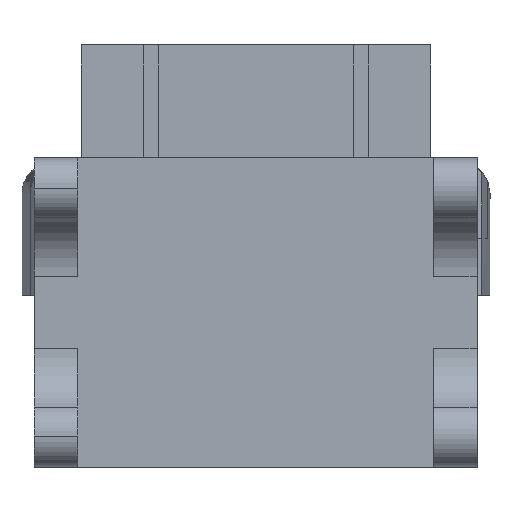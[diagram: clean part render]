
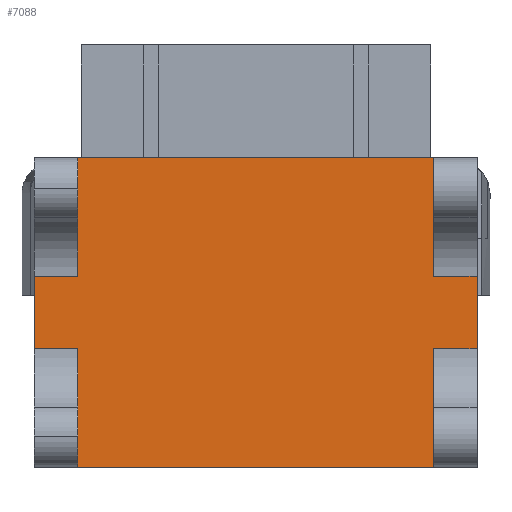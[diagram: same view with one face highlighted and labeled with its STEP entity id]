
A CAD part, front view. The second image highlights one B-rep face of the part: STEP entity #7088.
In plain terms, the highlighted planar face has unit normal (0, -1, 0).
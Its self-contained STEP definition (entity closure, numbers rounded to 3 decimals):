
#27 = ORIENTED_EDGE ( 'NONE', *, *, #7547, .T. ) ;
#153 = CARTESIAN_POINT ( 'NONE',  ( 12.776, -7.042, -13.654 ) ) ;
#169 = EDGE_CURVE ( 'NONE', #5848, #2011, #2639, .T. ) ;
#243 = CARTESIAN_POINT ( 'NONE',  ( -13.055, -7.042, -5.997 ) ) ;
#471 = ORIENTED_EDGE ( 'NONE', *, *, #169, .T. ) ;
#514 = DIRECTION ( 'NONE',  ( -1., 0., 0. ) ) ;
#641 = VERTEX_POINT ( 'NONE', #243 ) ;
#653 = LINE ( 'NONE', #731, #942 ) ;
#659 = CARTESIAN_POINT ( 'NONE',  ( 15.576, -7.042, -1.311 ) ) ;
#664 = VERTEX_POINT ( 'NONE', #2338 ) ;
#731 = CARTESIAN_POINT ( 'NONE',  ( 12.776, -7.042, -1.311 ) ) ;
#748 = EDGE_CURVE ( 'NONE', #2715, #5848, #653, .T. ) ;
#750 = CARTESIAN_POINT ( 'NONE',  ( -13.055, -7.042, -13.654 ) ) ;
#828 = DIRECTION ( 'NONE',  ( 1., 0., 0. ) ) ;
#829 = VECTOR ( 'NONE', #6937, 1000. ) ;
#832 = CARTESIAN_POINT ( 'NONE',  ( 12.776, -7.042, 6.346 ) ) ;
#873 = EDGE_CURVE ( 'NONE', #5083, #1534, #934, .T. ) ;
#934 = LINE ( 'NONE', #2819, #7248 ) ;
#942 = VECTOR ( 'NONE', #6274, 1000. ) ;
#1054 = VERTEX_POINT ( 'NONE', #8086 ) ;
#1104 = LINE ( 'NONE', #4258, #1109 ) ;
#1109 = VECTOR ( 'NONE', #6773, 1000. ) ;
#1168 = ORIENTED_EDGE ( 'NONE', *, *, #4626, .T. ) ;
#1450 = DIRECTION ( 'NONE',  ( 0., 0., -1. ) ) ;
#1524 = ORIENTED_EDGE ( 'NONE', *, *, #3459, .T. ) ;
#1534 = VERTEX_POINT ( 'NONE', #5227 ) ;
#1569 = EDGE_CURVE ( 'NONE', #1904, #2706, #6677, .T. ) ;
#1904 = VERTEX_POINT ( 'NONE', #4440 ) ;
#1933 = ORIENTED_EDGE ( 'NONE', *, *, #1569, .F. ) ;
#1951 = EDGE_CURVE ( 'NONE', #6123, #641, #6379, .T. ) ;
#2011 = VERTEX_POINT ( 'NONE', #7834 ) ;
#2338 = CARTESIAN_POINT ( 'NONE',  ( 12.776, -7.042, -5.997 ) ) ;
#2390 = VERTEX_POINT ( 'NONE', #6502 ) ;
#2639 = LINE ( 'NONE', #832, #7112 ) ;
#2706 = VERTEX_POINT ( 'NONE', #3118 ) ;
#2715 = VERTEX_POINT ( 'NONE', #659 ) ;
#2819 = CARTESIAN_POINT ( 'NONE',  ( -10.255, -7.042, 6.346 ) ) ;
#2841 = LINE ( 'NONE', #7294, #8071 ) ;
#2850 = DIRECTION ( 'NONE',  ( 0., 0., 1. ) ) ;
#3118 = CARTESIAN_POINT ( 'NONE',  ( -10.255, -7.042, -5.997 ) ) ;
#3183 = ORIENTED_EDGE ( 'NONE', *, *, #7134, .T. ) ;
#3306 = EDGE_CURVE ( 'NONE', #1904, #2390, #6373, .T. ) ;
#3420 = DIRECTION ( 'NONE',  ( 1., 0., 0. ) ) ;
#3459 = EDGE_CURVE ( 'NONE', #641, #2706, #7121, .T. ) ;
#3490 = CARTESIAN_POINT ( 'NONE',  ( 0., -7.042, -5.997 ) ) ;
#3543 = VECTOR ( 'NONE', #1450, 1000. ) ;
#3667 = ORIENTED_EDGE ( 'NONE', *, *, #3911, .T. ) ;
#3773 = VECTOR ( 'NONE', #514, 1000. ) ;
#3792 = CARTESIAN_POINT ( 'NONE',  ( -13.055, -7.042, -1.311 ) ) ;
#3911 = EDGE_CURVE ( 'NONE', #5083, #6123, #1104, .T. ) ;
#4165 = LINE ( 'NONE', #6680, #3773 ) ;
#4199 = ORIENTED_EDGE ( 'NONE', *, *, #5007, .T. ) ;
#4215 = CARTESIAN_POINT ( 'NONE',  ( 12.776, -7.042, -1.311 ) ) ;
#4258 = CARTESIAN_POINT ( 'NONE',  ( 0., -7.042, -1.311 ) ) ;
#4327 = VECTOR ( 'NONE', #2850, 1000. ) ;
#4440 = CARTESIAN_POINT ( 'NONE',  ( -10.255, -7.042, -13.654 ) ) ;
#4626 = EDGE_CURVE ( 'NONE', #2390, #664, #6275, .T. ) ;
#4752 = DIRECTION ( 'NONE',  ( 1., 0., 0. ) ) ;
#4812 = VECTOR ( 'NONE', #7195, 1000. ) ;
#4856 = DIRECTION ( 'NONE',  ( 0., -1., 0. ) ) ;
#4986 = ORIENTED_EDGE ( 'NONE', *, *, #1951, .T. ) ;
#5007 = EDGE_CURVE ( 'NONE', #664, #1054, #2841, .T. ) ;
#5083 = VERTEX_POINT ( 'NONE', #6550 ) ;
#5207 = AXIS2_PLACEMENT_3D ( 'NONE', #7307, #4856, #5559 ) ;
#5227 = CARTESIAN_POINT ( 'NONE',  ( -10.255, -7.042, 6.346 ) ) ;
#5324 = EDGE_LOOP ( 'NONE', ( #1168, #4199, #27, #7710, #471, #3183, #7001, #3667, #4986, #1524, #1933, #8144 ) ) ;
#5559 = DIRECTION ( 'NONE',  ( 0., 0., -1. ) ) ;
#5848 = VERTEX_POINT ( 'NONE', #4215 ) ;
#5856 = DIRECTION ( 'NONE',  ( 0., 0., 1. ) ) ;
#5892 = CARTESIAN_POINT ( 'NONE',  ( -10.255, -7.042, -13.654 ) ) ;
#6123 = VERTEX_POINT ( 'NONE', #3792 ) ;
#6177 = VECTOR ( 'NONE', #828, 1000. ) ;
#6184 = PLANE ( 'NONE',  #5207 ) ;
#6274 = DIRECTION ( 'NONE',  ( -1., 0., 0. ) ) ;
#6275 = LINE ( 'NONE', #153, #829 ) ;
#6373 = LINE ( 'NONE', #7041, #6177 ) ;
#6379 = LINE ( 'NONE', #750, #3543 ) ;
#6502 = CARTESIAN_POINT ( 'NONE',  ( 12.776, -7.042, -13.654 ) ) ;
#6550 = CARTESIAN_POINT ( 'NONE',  ( -10.255, -7.042, -1.311 ) ) ;
#6579 = LINE ( 'NONE', #7118, #4812 ) ;
#6588 = DIRECTION ( 'NONE',  ( 0., 0., 1. ) ) ;
#6677 = LINE ( 'NONE', #5892, #4327 ) ;
#6680 = CARTESIAN_POINT ( 'NONE',  ( 15.576, -7.042, 6.346 ) ) ;
#6773 = DIRECTION ( 'NONE',  ( -1., 0., 0. ) ) ;
#6937 = DIRECTION ( 'NONE',  ( 0., 0., 1. ) ) ;
#7001 = ORIENTED_EDGE ( 'NONE', *, *, #873, .F. ) ;
#7041 = CARTESIAN_POINT ( 'NONE',  ( 15.576, -7.042, -13.654 ) ) ;
#7088 = ADVANCED_FACE ( 'NONE', ( #8015 ), #6184, .T. ) ;
#7112 = VECTOR ( 'NONE', #6588, 1000. ) ;
#7118 = CARTESIAN_POINT ( 'NONE',  ( 15.576, -7.042, -13.654 ) ) ;
#7121 = LINE ( 'NONE', #3490, #7236 ) ;
#7134 = EDGE_CURVE ( 'NONE', #2011, #1534, #4165, .T. ) ;
#7195 = DIRECTION ( 'NONE',  ( 0., 0., 1. ) ) ;
#7236 = VECTOR ( 'NONE', #4752, 1000. ) ;
#7248 = VECTOR ( 'NONE', #5856, 1000. ) ;
#7294 = CARTESIAN_POINT ( 'NONE',  ( 15.576, -7.042, -5.997 ) ) ;
#7307 = CARTESIAN_POINT ( 'NONE',  ( 0., -7.042, 0. ) ) ;
#7547 = EDGE_CURVE ( 'NONE', #1054, #2715, #6579, .T. ) ;
#7710 = ORIENTED_EDGE ( 'NONE', *, *, #748, .T. ) ;
#7834 = CARTESIAN_POINT ( 'NONE',  ( 12.776, -7.042, 6.346 ) ) ;
#8015 = FACE_OUTER_BOUND ( 'NONE', #5324, .T. ) ;
#8071 = VECTOR ( 'NONE', #3420, 1000. ) ;
#8086 = CARTESIAN_POINT ( 'NONE',  ( 15.576, -7.042, -5.997 ) ) ;
#8144 = ORIENTED_EDGE ( 'NONE', *, *, #3306, .T. ) ;
